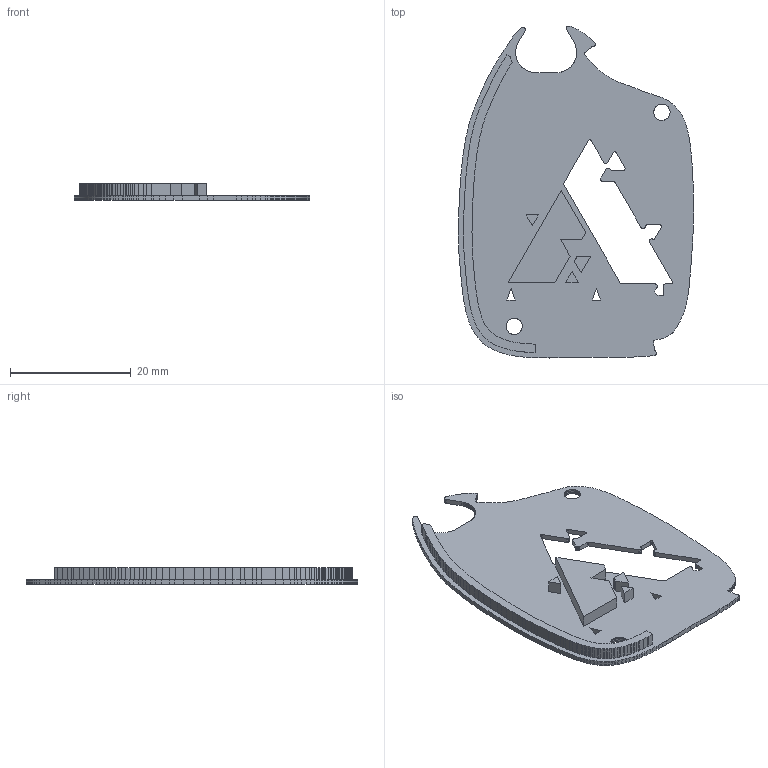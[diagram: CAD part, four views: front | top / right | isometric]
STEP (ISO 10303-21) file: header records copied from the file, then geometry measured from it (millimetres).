
FILE_DESCRIPTION(('Open CASCADE Model'),'2;1');
FILE_NAME('Open CASCADE Shape Model','2026-10-15T03:32:02',('Author'),( 'Open CASCADE'),'Open CASCADE STEP processor 7.9','Open CASCADE 7.9' ,'Unknown');
FILE_SCHEMA(('AUTOMOTIVE_DESIGN { 1 0 10303 214 1 1 1 1 }'));
Products named in the file (1): Open CASCADE STEP translator 7.9 3
Bounding box: 39 x 55.06 x 2.8 mm (x, y, z)
Volume: 1557.2 mm3; surface area: 3613.4 mm2
Topology: 1 solids, 1 shells, 937 faces, 2790 edges, 1860 vertices
Faces by surface type: plane 937
Entity records: 66670 total; most frequent: CARTESIAN_POINT 11562, DIRECTION 9852, LINE 7976, VECTOR 7976, ORIENTED_EDGE 5580, PCURVE 5580, DEFINITIONAL_REPRESENTATION 5580, EDGE_CURVE 2790
